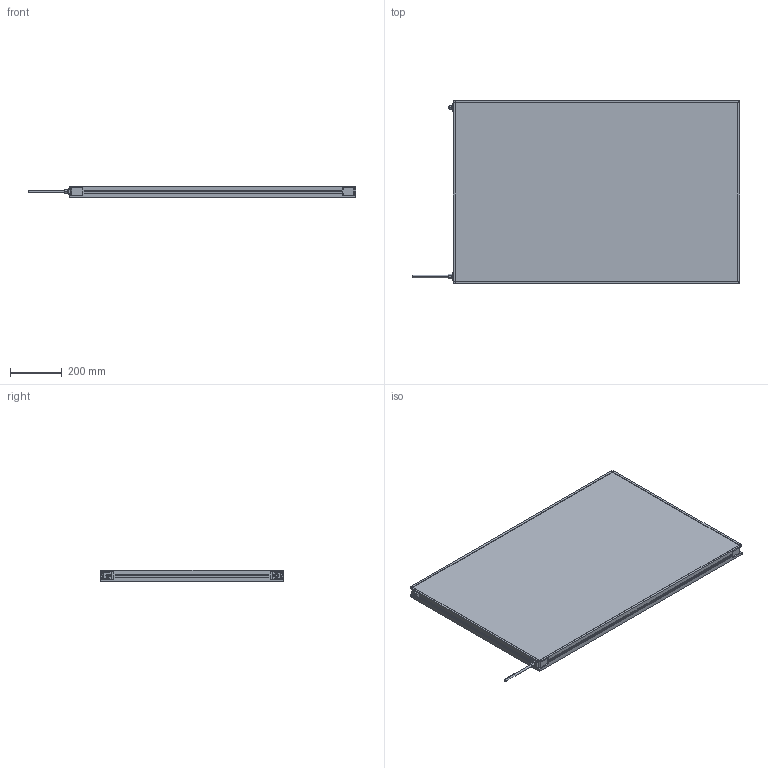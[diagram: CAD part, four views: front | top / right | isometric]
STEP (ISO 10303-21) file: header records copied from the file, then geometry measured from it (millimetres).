
FILE_DESCRIPTION (( 'STEP AP214' ), '1' );
FILE_NAME ('MBACK-xxxx-xxx-M1A2_CLIENT700x1100.STEP', '2022-04-01T11:48:54', ( '' ), ( '' ), 'SwSTEP 2.0', 'SolidWorks 2020', '' );
FILE_SCHEMA (( 'AUTOMOTIVE_DESIGN' ));
Length unit declared in the file: millimetre
Products named in the file (1): MBACK-xxxx-xxx-M1A2_CLIENT700x1100
Bounding box: 1267.4 x 708 x 45.5 mm (x, y, z)
Volume: 32698421.1 mm3; surface area: 1816125.3 mm2
Topology: 1 solids, 1 shells, 470 faces, 1210 edges, 804 vertices
Faces by surface type: plane 265, cylinder 117, bspline 80, cone 8
Entity records: 18046 total; most frequent: CARTESIAN_POINT 6837, ORIENTED_EDGE 2420, DIRECTION 2082, EDGE_CURVE 1210, VERTEX_POINT 804, LINE 800, VECTOR 800, AXIS2_PLACEMENT_3D 641
